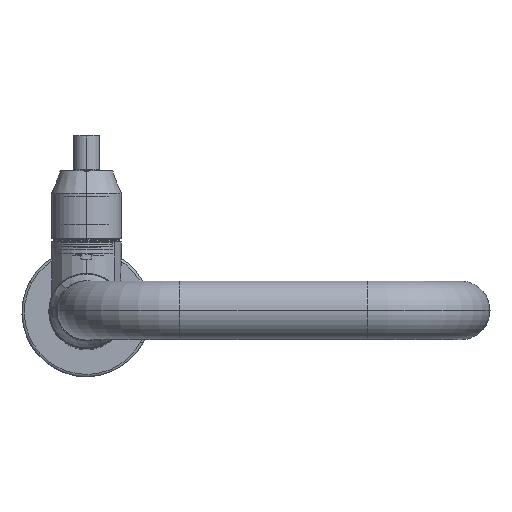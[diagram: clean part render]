
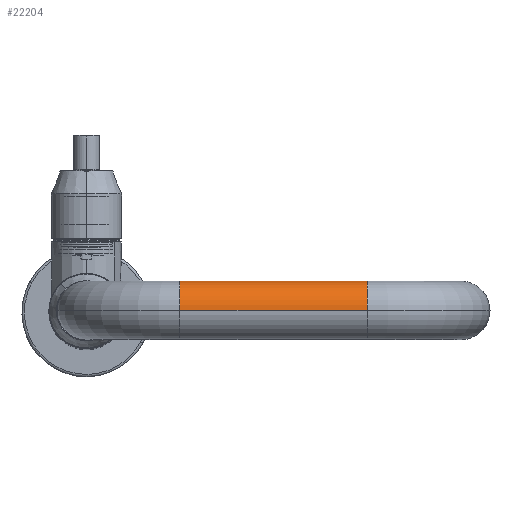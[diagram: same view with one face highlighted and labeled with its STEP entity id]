
A CAD part, top view. The second image highlights one B-rep face of the part: STEP entity #22204.
In plain terms, the highlighted cylindrical face has radius 12.5 mm (diameter 25 mm), a partial arc.
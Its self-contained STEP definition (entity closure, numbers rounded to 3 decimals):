
#869 = ORIENTED_EDGE ( 'NONE', *, *, #16921, .F. ) ;
#3323 = ORIENTED_EDGE ( 'NONE', *, *, #31534, .T. ) ;
#3588 = CYLINDRICAL_SURFACE ( 'NONE', #21037, 12.5 ) ;
#6693 = CARTESIAN_POINT ( 'NONE',  ( 120., 0., 145. ) ) ;
#7379 = CARTESIAN_POINT ( 'NONE',  ( 120., 0., 145. ) ) ;
#8231 = VECTOR ( 'NONE', #28278, 1000. ) ;
#9084 = CARTESIAN_POINT ( 'NONE',  ( 120., 0., 157.5 ) ) ;
#9366 = EDGE_CURVE ( 'NONE', #38892, #35898, #21571, .T. ) ;
#10873 = CARTESIAN_POINT ( 'NONE',  ( 40., 0., 157.5 ) ) ;
#11270 = FACE_OUTER_BOUND ( 'NONE', #41070, .T. ) ;
#15380 = DIRECTION ( 'NONE',  ( 0., 0., -1. ) ) ;
#16921 = EDGE_CURVE ( 'NONE', #35898, #29024, #28673, .T. ) ;
#21037 = AXIS2_PLACEMENT_3D ( 'NONE', #6693, #24344, #41753 ) ;
#21408 = LINE ( 'NONE', #38463, #8231 ) ;
#21571 = CIRCLE ( 'NONE', #24077, 12.5 ) ;
#22204 = ADVANCED_FACE ( 'NONE', ( #11270 ), #3588, .T. ) ;
#23017 = DIRECTION ( 'NONE',  ( 1., 0., 0. ) ) ;
#24077 = AXIS2_PLACEMENT_3D ( 'NONE', #7379, #31923, #35456 ) ;
#24344 = DIRECTION ( 'NONE',  ( -1., 0., 0. ) ) ;
#25944 = CARTESIAN_POINT ( 'NONE',  ( 40., 0., 145. ) ) ;
#26465 = VECTOR ( 'NONE', #40597, 1000. ) ;
#27274 = CIRCLE ( 'NONE', #45453, 12.5 ) ;
#28278 = DIRECTION ( 'NONE',  ( -1., 0., 0. ) ) ;
#28673 = LINE ( 'NONE', #9084, #26465 ) ;
#28941 = ORIENTED_EDGE ( 'NONE', *, *, #40891, .T. ) ;
#29024 = VERTEX_POINT ( 'NONE', #10873 ) ;
#31522 = VERTEX_POINT ( 'NONE', #33035 ) ;
#31534 = EDGE_CURVE ( 'NONE', #31522, #29024, #27274, .T. ) ;
#31923 = DIRECTION ( 'NONE',  ( 1., 0., 0. ) ) ;
#33035 = CARTESIAN_POINT ( 'NONE',  ( 40., 0., 132.5 ) ) ;
#35456 = DIRECTION ( 'NONE',  ( 0., 0., -1. ) ) ;
#35835 = CARTESIAN_POINT ( 'NONE',  ( 120., 0., 157.5 ) ) ;
#35898 = VERTEX_POINT ( 'NONE', #35835 ) ;
#38463 = CARTESIAN_POINT ( 'NONE',  ( 120., 0., 132.5 ) ) ;
#38892 = VERTEX_POINT ( 'NONE', #40269 ) ;
#40269 = CARTESIAN_POINT ( 'NONE',  ( 120., 0., 132.5 ) ) ;
#40597 = DIRECTION ( 'NONE',  ( -1., 0., 0. ) ) ;
#40891 = EDGE_CURVE ( 'NONE', #38892, #31522, #21408, .T. ) ;
#41070 = EDGE_LOOP ( 'NONE', ( #43045, #28941, #3323, #869 ) ) ;
#41753 = DIRECTION ( 'NONE',  ( 0., 0., 1. ) ) ;
#43045 = ORIENTED_EDGE ( 'NONE', *, *, #9366, .F. ) ;
#45453 = AXIS2_PLACEMENT_3D ( 'NONE', #25944, #23017, #15380 ) ;
